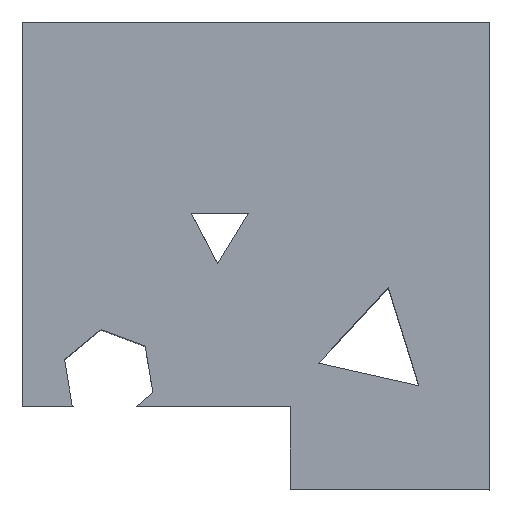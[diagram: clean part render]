
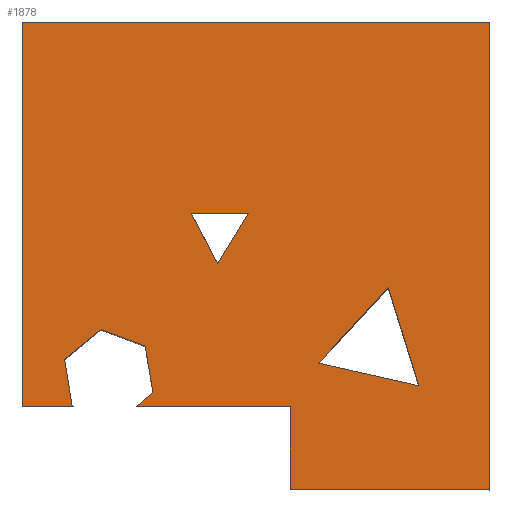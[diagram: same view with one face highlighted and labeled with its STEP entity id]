
A CAD part, top view. The second image highlights one B-rep face of the part: STEP entity #1878.
In plain terms, the highlighted planar face has unit normal (0, 0, 1).
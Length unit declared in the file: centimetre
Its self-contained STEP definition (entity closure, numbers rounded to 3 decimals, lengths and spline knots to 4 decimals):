
#8 = CARTESIAN_POINT ( 'NONE',  ( 0., 1000., 1000. ) ) ;
#14 = VECTOR ( 'NONE', #243, 100. ) ;
#28 = LINE ( 'NONE', #1322, #1088 ) ;
#44 = VECTOR ( 'NONE', #2014, 100. ) ;
#50 = ORIENTED_EDGE ( 'NONE', *, *, #977, .T. ) ;
#52 = VERTEX_POINT ( 'NONE', #133 ) ;
#59 = DIRECTION ( 'NONE',  ( 0., -1., 0. ) ) ;
#64 = VERTEX_POINT ( 'NONE', #1736 ) ;
#108 = DIRECTION ( 'NONE',  ( -1., 0., 0. ) ) ;
#133 = CARTESIAN_POINT ( 'NONE',  ( 1000., 0., 1000. ) ) ;
#140 = VERTEX_POINT ( 'NONE', #1278 ) ;
#159 = DIRECTION ( 'NONE',  ( -0.519, -0.855, 0. ) ) ;
#168 = DIRECTION ( 'NONE',  ( -0.976, 0.22, 0. ) ) ;
#170 = LINE ( 'NONE', #1828, #1894 ) ;
#173 = VERTEX_POINT ( 'NONE', #1947 ) ;
#189 = ORIENTED_EDGE ( 'NONE', *, *, #658, .F. ) ;
#215 = VECTOR ( 'NONE', #1658, 100. ) ;
#216 = FACE_BOUND ( 'NONE', #1493, .T. ) ;
#232 = CARTESIAN_POINT ( 'NONE',  ( 483.5178, 591.0293, 1000. ) ) ;
#236 = DIRECTION ( 'NONE',  ( 1., 0., 0. ) ) ;
#243 = DIRECTION ( 'NONE',  ( 0.936, -0.351, 0. ) ) ;
#257 = CARTESIAN_POINT ( 'NONE',  ( 361.5606, 591.0293, 1000. ) ) ;
#283 = LINE ( 'NONE', #425, #926 ) ;
#289 = CARTESIAN_POINT ( 'NONE',  ( 783.1323, 431.7523, 1000. ) ) ;
#297 = EDGE_CURVE ( 'NONE', #1845, #544, #28, .T. ) ;
#314 = CARTESIAN_POINT ( 'NONE',  ( 1000., 1000., 1000. ) ) ;
#315 = CARTESIAN_POINT ( 'NONE',  ( 279.4916, 206.6233, 1000. ) ) ;
#334 = LINE ( 'NONE', #630, #1752 ) ;
#343 = VECTOR ( 'NONE', #2004, 100. ) ;
#351 = VERTEX_POINT ( 'NONE', #1712 ) ;
#377 = LINE ( 'NONE', #1708, #44 ) ;
#405 = EDGE_CURVE ( 'NONE', #944, #173, #1876, .T. ) ;
#425 = CARTESIAN_POINT ( 'NONE',  ( 573.7884, 176.967, 1000. ) ) ;
#431 = EDGE_CURVE ( 'NONE', #542, #1464, #1219, .T. ) ;
#443 = LINE ( 'NONE', #1566, #1547 ) ;
#477 = EDGE_LOOP ( 'NONE', ( #1776, #1842, #507, #678, #1437, #664, #1718, #1509, #189, #1068, #1494, #1311, #1914 ) ) ;
#481 = EDGE_CURVE ( 'NONE', #544, #1935, #947, .T. ) ;
#498 = VERTEX_POINT ( 'NONE', #314 ) ;
#507 = ORIENTED_EDGE ( 'NONE', *, *, #545, .T. ) ;
#514 = VECTOR ( 'NONE', #1110, 100. ) ;
#542 = VERTEX_POINT ( 'NONE', #1960 ) ;
#544 = VERTEX_POINT ( 'NONE', #1608 ) ;
#545 = EDGE_CURVE ( 'NONE', #1868, #351, #810, .T. ) ;
#549 = VECTOR ( 'NONE', #1254, 100. ) ;
#553 = DIRECTION ( 'NONE',  ( 0., 0., 1. ) ) ;
#585 = VERTEX_POINT ( 'NONE', #617 ) ;
#598 = DIRECTION ( 'NONE',  ( 1., 0., 0. ) ) ;
#617 = CARTESIAN_POINT ( 'NONE',  ( 168.3499, 341.6981, 1000. ) ) ;
#630 = CARTESIAN_POINT ( 'NONE',  ( 417.7457, 482.6438, 1000. ) ) ;
#638 = DIRECTION ( 'NONE',  ( -1., 0., 0. ) ) ;
#658 = EDGE_CURVE ( 'NONE', #1920, #1146, #693, .T. ) ;
#664 = ORIENTED_EDGE ( 'NONE', *, *, #1635, .T. ) ;
#678 = ORIENTED_EDGE ( 'NONE', *, *, #860, .T. ) ;
#683 = CARTESIAN_POINT ( 'NONE',  ( 201.5061, 142.4556, 1000. ) ) ;
#693 = LINE ( 'NONE', #868, #343 ) ;
#719 = LINE ( 'NONE', #770, #1507 ) ;
#731 = CARTESIAN_POINT ( 'NONE',  ( 0., 1000., 1000. ) ) ;
#747 = VECTOR ( 'NONE', #1201, 100. ) ;
#770 = CARTESIAN_POINT ( 'NONE',  ( 1000., 1000., 1000. ) ) ;
#801 = CARTESIAN_POINT ( 'NONE',  ( 0., 176.967, 1000. ) ) ;
#810 = LINE ( 'NONE', #1769, #549 ) ;
#812 = DIRECTION ( 'NONE',  ( 0.678, 0.735, 0. ) ) ;
#824 = DIRECTION ( 'NONE',  ( -0.772, -0.635, 0. ) ) ;
#860 = EDGE_CURVE ( 'NONE', #351, #585, #377, .T. ) ;
#868 = CARTESIAN_POINT ( 'NONE',  ( 573.7884, 0., 1000. ) ) ;
#870 = LINE ( 'NONE', #1050, #14 ) ;
#872 = FACE_OUTER_BOUND ( 'NONE', #477, .T. ) ;
#882 = PLANE ( 'NONE',  #1995 ) ;
#890 = VECTOR ( 'NONE', #1417, 100. ) ;
#895 = LINE ( 'NONE', #731, #1064 ) ;
#926 = VECTOR ( 'NONE', #108, 100. ) ;
#932 = CARTESIAN_POINT ( 'NONE',  ( 633.9665, 270.1519, 1000. ) ) ;
#944 = VERTEX_POINT ( 'NONE', #1185 ) ;
#947 = LINE ( 'NONE', #932, #1645 ) ;
#977 = EDGE_CURVE ( 'NONE', #173, #1020, #1698, .T. ) ;
#992 = CARTESIAN_POINT ( 'NONE',  ( 573.7884, 176.967, 1000. ) ) ;
#1019 = FACE_BOUND ( 'NONE', #1054, .T. ) ;
#1020 = VERTEX_POINT ( 'NONE', #1768 ) ;
#1034 = CARTESIAN_POINT ( 'NONE',  ( 573.7884, 0., 1000. ) ) ;
#1050 = CARTESIAN_POINT ( 'NONE',  ( 168.3499, 341.6981, 1000. ) ) ;
#1054 = EDGE_LOOP ( 'NONE', ( #1569, #1585, #2079 ) ) ;
#1064 = VECTOR ( 'NONE', #59, 100. ) ;
#1068 = ORIENTED_EDGE ( 'NONE', *, *, #1651, .T. ) ;
#1088 = VECTOR ( 'NONE', #1888, 100. ) ;
#1097 = VECTOR ( 'NONE', #824, 100. ) ;
#1110 = DIRECTION ( 'NONE',  ( 1., 0., 0. ) ) ;
#1143 = LINE ( 'NONE', #315, #1097 ) ;
#1146 = VERTEX_POINT ( 'NONE', #992 ) ;
#1185 = CARTESIAN_POINT ( 'NONE',  ( 417.7457, 482.6438, 1000. ) ) ;
#1201 = DIRECTION ( 'NONE',  ( -1., 0., 0. ) ) ;
#1205 = VERTEX_POINT ( 'NONE', #8 ) ;
#1219 = LINE ( 'NONE', #2083, #747 ) ;
#1247 = CARTESIAN_POINT ( 'NONE',  ( 279.4916, 206.6233, 1000. ) ) ;
#1254 = DIRECTION ( 'NONE',  ( -0.164, 0.986, 0. ) ) ;
#1278 = CARTESIAN_POINT ( 'NONE',  ( 243.4491, 176.967, 1000. ) ) ;
#1311 = ORIENTED_EDGE ( 'NONE', *, *, #1472, .T. ) ;
#1322 = CARTESIAN_POINT ( 'NONE',  ( 848.4995, 221.7707, 1000. ) ) ;
#1373 = EDGE_CURVE ( 'NONE', #1935, #1845, #170, .T. ) ;
#1417 = DIRECTION ( 'NONE',  ( -0.46, 0.888, 0. ) ) ;
#1426 = CARTESIAN_POINT ( 'NONE',  ( 0., 0., 1000. ) ) ;
#1437 = ORIENTED_EDGE ( 'NONE', *, *, #1570, .T. ) ;
#1446 = EDGE_CURVE ( 'NONE', #542, #1868, #1501, .T. ) ;
#1458 = LINE ( 'NONE', #1962, #1959 ) ;
#1464 = VERTEX_POINT ( 'NONE', #801 ) ;
#1466 = CARTESIAN_POINT ( 'NONE',  ( 633.9665, 270.1519, 1000. ) ) ;
#1472 = EDGE_CURVE ( 'NONE', #498, #1205, #1458, .T. ) ;
#1493 = EDGE_LOOP ( 'NONE', ( #50, #1673, #1695 ) ) ;
#1494 = ORIENTED_EDGE ( 'NONE', *, *, #1916, .T. ) ;
#1501 = LINE ( 'NONE', #683, #215 ) ;
#1507 = VECTOR ( 'NONE', #2018, 100. ) ;
#1509 = ORIENTED_EDGE ( 'NONE', *, *, #1704, .F. ) ;
#1547 = VECTOR ( 'NONE', #1588, 100. ) ;
#1566 = CARTESIAN_POINT ( 'NONE',  ( 262.9135, 306.2446, 1000. ) ) ;
#1569 = ORIENTED_EDGE ( 'NONE', *, *, #1373, .T. ) ;
#1570 = EDGE_CURVE ( 'NONE', #585, #64, #870, .T. ) ;
#1585 = ORIENTED_EDGE ( 'NONE', *, *, #297, .T. ) ;
#1588 = DIRECTION ( 'NONE',  ( 0.164, -0.986, 0. ) ) ;
#1608 = CARTESIAN_POINT ( 'NONE',  ( 848.4995, 221.7707, 1000. ) ) ;
#1635 = EDGE_CURVE ( 'NONE', #64, #1820, #443, .T. ) ;
#1645 = VECTOR ( 'NONE', #168, 100. ) ;
#1651 = EDGE_CURVE ( 'NONE', #1920, #52, #2082, .T. ) ;
#1658 = DIRECTION ( 'NONE',  ( -0.936, 0.351, 0. ) ) ;
#1673 = ORIENTED_EDGE ( 'NONE', *, *, #2010, .T. ) ;
#1695 = ORIENTED_EDGE ( 'NONE', *, *, #405, .T. ) ;
#1698 = LINE ( 'NONE', #232, #514 ) ;
#1704 = EDGE_CURVE ( 'NONE', #1146, #140, #283, .T. ) ;
#1708 = CARTESIAN_POINT ( 'NONE',  ( 90.3644, 277.5304, 1000. ) ) ;
#1712 = CARTESIAN_POINT ( 'NONE',  ( 90.3644, 277.5304, 1000. ) ) ;
#1718 = ORIENTED_EDGE ( 'NONE', *, *, #1968, .T. ) ;
#1736 = CARTESIAN_POINT ( 'NONE',  ( 262.9135, 306.2446, 1000. ) ) ;
#1752 = VECTOR ( 'NONE', #159, 100. ) ;
#1768 = CARTESIAN_POINT ( 'NONE',  ( 483.5178, 591.0293, 1000. ) ) ;
#1769 = CARTESIAN_POINT ( 'NONE',  ( 106.9425, 177.9092, 1000. ) ) ;
#1776 = ORIENTED_EDGE ( 'NONE', *, *, #431, .F. ) ;
#1818 = VECTOR ( 'NONE', #598, 100. ) ;
#1820 = VERTEX_POINT ( 'NONE', #1247 ) ;
#1828 = CARTESIAN_POINT ( 'NONE',  ( 783.1323, 431.7523, 1000. ) ) ;
#1842 = ORIENTED_EDGE ( 'NONE', *, *, #1446, .T. ) ;
#1845 = VERTEX_POINT ( 'NONE', #289 ) ;
#1868 = VERTEX_POINT ( 'NONE', #2031 ) ;
#1876 = LINE ( 'NONE', #257, #890 ) ;
#1878 = ADVANCED_FACE ( 'NONE', ( #872, #1019, #216 ), #882, .T. ) ;
#1888 = DIRECTION ( 'NONE',  ( 0.297, -0.955, 0. ) ) ;
#1890 = EDGE_CURVE ( 'NONE', #1205, #1464, #895, .T. ) ;
#1894 = VECTOR ( 'NONE', #812, 100. ) ;
#1914 = ORIENTED_EDGE ( 'NONE', *, *, #1890, .T. ) ;
#1916 = EDGE_CURVE ( 'NONE', #52, #498, #719, .T. ) ;
#1917 = CARTESIAN_POINT ( 'NONE',  ( 0., 0., 1000. ) ) ;
#1920 = VERTEX_POINT ( 'NONE', #1034 ) ;
#1935 = VERTEX_POINT ( 'NONE', #1466 ) ;
#1947 = CARTESIAN_POINT ( 'NONE',  ( 361.5606, 591.0293, 1000. ) ) ;
#1959 = VECTOR ( 'NONE', #638, 100. ) ;
#1960 = CARTESIAN_POINT ( 'NONE',  ( 109.4557, 176.967, 1000. ) ) ;
#1962 = CARTESIAN_POINT ( 'NONE',  ( 0., 1000., 1000. ) ) ;
#1968 = EDGE_CURVE ( 'NONE', #1820, #140, #1143, .T. ) ;
#1995 = AXIS2_PLACEMENT_3D ( 'NONE', #1426, #553, #236 ) ;
#2004 = DIRECTION ( 'NONE',  ( 0., 1., 0. ) ) ;
#2010 = EDGE_CURVE ( 'NONE', #1020, #944, #334, .T. ) ;
#2014 = DIRECTION ( 'NONE',  ( 0.772, 0.635, 0. ) ) ;
#2018 = DIRECTION ( 'NONE',  ( 0., 1., 0. ) ) ;
#2031 = CARTESIAN_POINT ( 'NONE',  ( 106.9425, 177.9092, 1000. ) ) ;
#2079 = ORIENTED_EDGE ( 'NONE', *, *, #481, .T. ) ;
#2082 = LINE ( 'NONE', #1917, #1818 ) ;
#2083 = CARTESIAN_POINT ( 'NONE',  ( 573.7884, 176.967, 1000. ) ) ;
